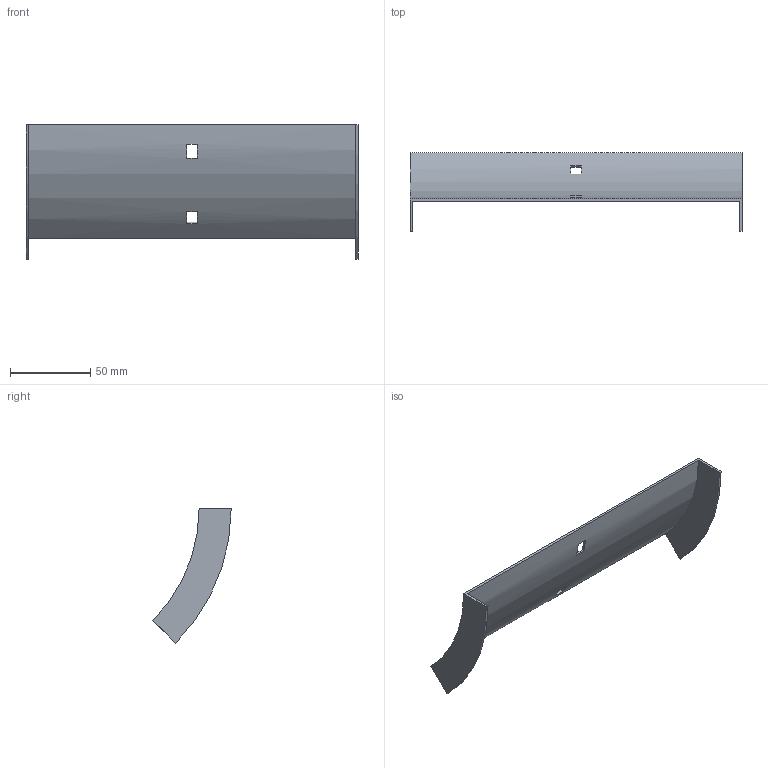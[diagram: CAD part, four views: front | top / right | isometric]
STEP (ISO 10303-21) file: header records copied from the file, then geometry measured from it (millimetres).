
FILE_DESCRIPTION (( 'STEP AP214' ), '1' );
FILE_NAME ('31N1R200.step', '2025-02-21T09:23:07', ( '' ), ( '' ), 'SwSTEP 2.0', 'SolidWorks 2023', '' );
FILE_SCHEMA (( 'AUTOMOTIVE_DESIGN' ));
Length unit declared in the file: millimetre
Products named in the file (1): 31N1R200
Bounding box: 207 x 48.85 x 83.79 mm (x, y, z)
Volume: 28787.8 mm3; surface area: 39487.6 mm2
Topology: 1 solids, 1 shells, 18 faces, 48 edges, 32 vertices
Faces by surface type: plane 14, cylinder 4
Entity records: 599 total; most frequent: DIRECTION 102, CARTESIAN_POINT 99, ORIENTED_EDGE 96, EDGE_CURVE 48, AXIS2_PLACEMENT_3D 35, VERTEX_POINT 32, VECTOR 32, LINE 32
